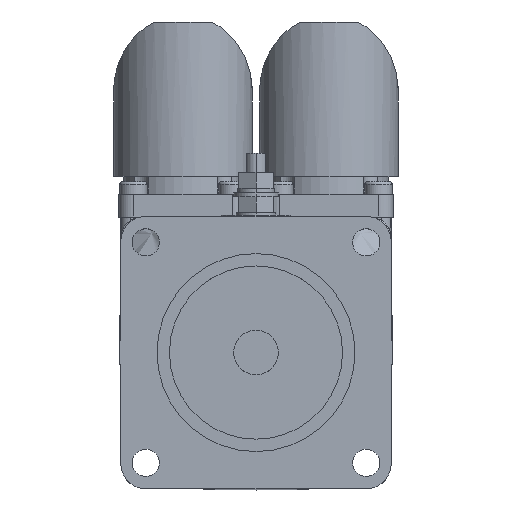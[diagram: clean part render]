
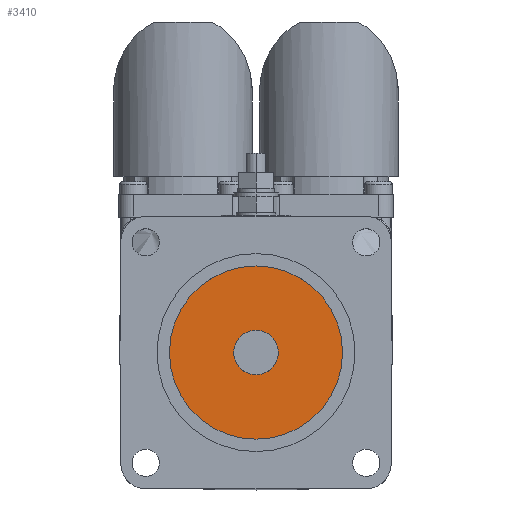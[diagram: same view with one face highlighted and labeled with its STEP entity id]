
A CAD part, top view. The second image highlights one B-rep face of the part: STEP entity #3410.
In plain terms, the highlighted planar face has unit normal (0, 0, 1).
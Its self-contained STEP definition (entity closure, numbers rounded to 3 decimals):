
#956 = CIRCLE ( 'NONE', #3211, 4.5 ) ;
#961 = CIRCLE ( 'NONE', #3215, 17.5 ) ;
#969 = CIRCLE ( 'NONE', #3217, 17.5 ) ;
#1012 = CIRCLE ( 'NONE', #3227, 4.5 ) ;
#3125 = CARTESIAN_POINT ( 'NONE',  ( 0., 0., 106.5 ) ) ;
#3137 = CARTESIAN_POINT ( 'NONE',  ( 0., 0., 106.5 ) ) ;
#3138 = DIRECTION ( 'NONE',  ( 0., 0., 1. ) ) ;
#3139 = DIRECTION ( 'NONE',  ( 1., 0., 0. ) ) ;
#3148 = DIRECTION ( 'NONE',  ( 0., 0., 1. ) ) ;
#3149 = DIRECTION ( 'NONE',  ( 1., 0., 0. ) ) ;
#3158 = CARTESIAN_POINT ( 'NONE',  ( 0., 0., 106.5 ) ) ;
#3164 = DIRECTION ( 'NONE',  ( 0., 0., 1. ) ) ;
#3165 = DIRECTION ( 'NONE',  ( 1., 0., 0. ) ) ;
#3211 = AXIS2_PLACEMENT_3D ( 'NONE', #3125, #3138, #3139 ) ;
#3215 = AXIS2_PLACEMENT_3D ( 'NONE', #3137, #3148, #3149 ) ;
#3217 = AXIS2_PLACEMENT_3D ( 'NONE', #3158, #3164, #3165 ) ;
#3227 = AXIS2_PLACEMENT_3D ( 'NONE', #3550, #3556, #3557 ) ;
#3410 = ADVANCED_FACE ( 'NONE', ( #11894, #11899 ), #5789, .T. ) ;
#3550 = CARTESIAN_POINT ( 'NONE',  ( 0., 0., 106.5 ) ) ;
#3556 = DIRECTION ( 'NONE',  ( 0., 0., 1. ) ) ;
#3557 = DIRECTION ( 'NONE',  ( 1., 0., 0. ) ) ;
#5065 = VERTEX_POINT ( 'NONE', #6281 ) ;
#5068 = VERTEX_POINT ( 'NONE', #6284 ) ;
#5083 = VERTEX_POINT ( 'NONE', #6299 ) ;
#5088 = VERTEX_POINT ( 'NONE', #6304 ) ;
#5788 = CARTESIAN_POINT ( 'NONE',  ( 0., 0., 106.5 ) ) ;
#5789 = PLANE ( 'NONE',  #12639 ) ;
#5790 = DIRECTION ( 'NONE',  ( 0., 0., 1. ) ) ;
#5791 = DIRECTION ( 'NONE',  ( 1., 0., 0. ) ) ;
#6281 = CARTESIAN_POINT ( 'NONE',  ( -4.5, 0., 106.5 ) ) ;
#6284 = CARTESIAN_POINT ( 'NONE',  ( 4.5, 0., 106.5 ) ) ;
#6299 = CARTESIAN_POINT ( 'NONE',  ( -17.5, 0., 106.5 ) ) ;
#6304 = CARTESIAN_POINT ( 'NONE',  ( 17.5, 0., 106.5 ) ) ;
#8390 = ORIENTED_EDGE ( 'NONE', *, *, #12354, .F. ) ;
#8392 = ORIENTED_EDGE ( 'NONE', *, *, #12281, .F. ) ;
#8393 = ORIENTED_EDGE ( 'NONE', *, *, #12296, .T. ) ;
#8394 = ORIENTED_EDGE ( 'NONE', *, *, #12285, .T. ) ;
#11894 = FACE_OUTER_BOUND ( 'NONE', #12546, .T. ) ;
#11899 = FACE_BOUND ( 'NONE', #12564, .T. ) ;
#12281 = EDGE_CURVE ( 'NONE', #5068, #5065, #956, .T. ) ;
#12285 = EDGE_CURVE ( 'NONE', #5088, #5083, #961, .T. ) ;
#12296 = EDGE_CURVE ( 'NONE', #5083, #5088, #969, .T. ) ;
#12354 = EDGE_CURVE ( 'NONE', #5065, #5068, #1012, .T. ) ;
#12546 = EDGE_LOOP ( 'NONE', ( #8394, #8393 ) ) ;
#12564 = EDGE_LOOP ( 'NONE', ( #8390, #8392 ) ) ;
#12639 = AXIS2_PLACEMENT_3D ( 'NONE', #5788, #5790, #5791 ) ;
